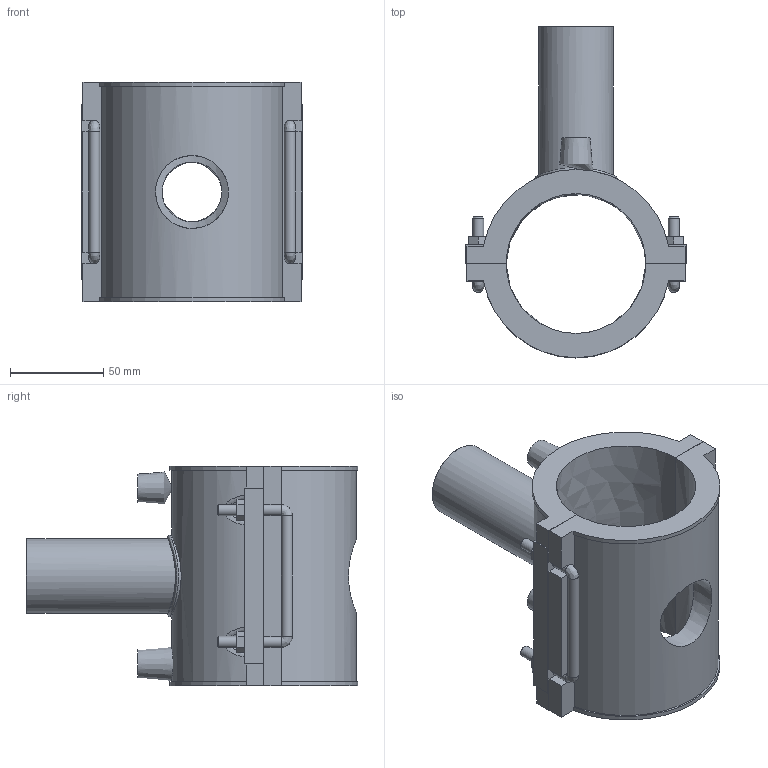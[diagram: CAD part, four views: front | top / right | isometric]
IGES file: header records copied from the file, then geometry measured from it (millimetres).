
Global section: file name: 495804075040.ipt; native system: Autodesk Inventor 2015; preprocessor: unknown; author: KIM; date: 20180426.120826; units: millimetre
Bounding box: 119 x 177.99 x 118 mm (x, y, z)
Volume: 455345.5 mm3; surface area: 112043.9 mm2
Topology: 2 solids, 2 shells, 133 faces, 340 edges, 214 vertices
Faces by surface type: plane 85, cylinder 22, revolution 10, bspline 9, cone 7
Full cylindrical faces by diameter (mm): 4 x2, 6 x10, 40 x1, 44 x1
